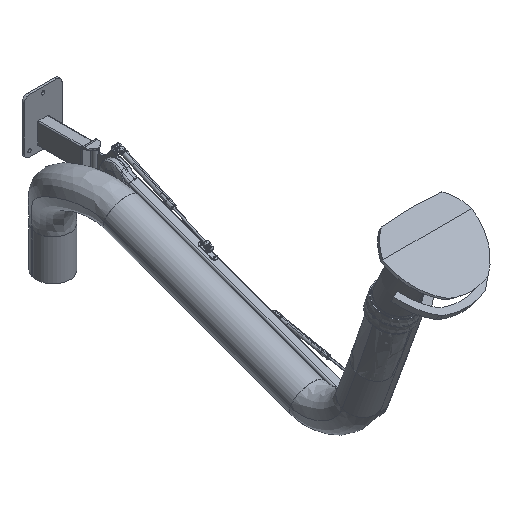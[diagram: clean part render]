
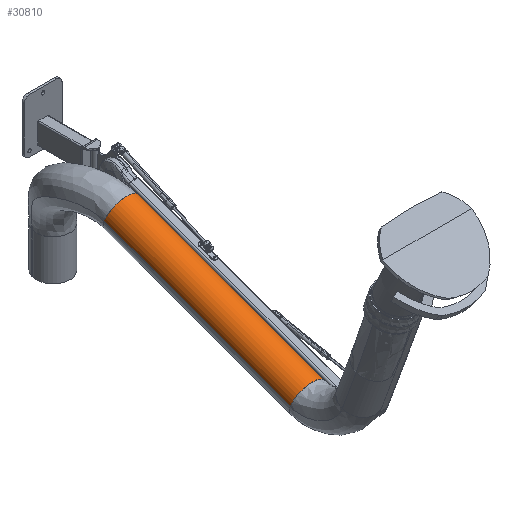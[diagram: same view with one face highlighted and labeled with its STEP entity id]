
A CAD part, isometric view. The second image highlights one B-rep face of the part: STEP entity #30810.
In plain terms, the highlighted free-form (B-spline) face has degree [3, 3] with [7, 6] control points.
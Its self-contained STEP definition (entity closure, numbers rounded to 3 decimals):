
#29504=CARTESIAN_POINT('',(-70.,880.727,-575.));
#29505=DIRECTION('',(0.,1.,0.));
#29506=DIRECTION('',(-1.,0.,0.));
#29507=AXIS2_PLACEMENT_3D('',#29504,#29505,#29506);
#29582=CARTESIAN_POINT('',(-70.,150.,-575.));
#29583=DIRECTION('',(0.,1.,0.));
#29584=DIRECTION('',(-1.,0.,0.));
#29585=AXIS2_PLACEMENT_3D('',#29582,#29583,#29584);
#29590=CARTESIAN_POINT('',(-132.5,150.,-575.));
#29591=CARTESIAN_POINT('',(-132.5,231.192,
-575.));
#29592=CARTESIAN_POINT('',(-132.5,393.576,
-575.));
#29593=CARTESIAN_POINT('',(-132.5,637.152,
-575.));
#29594=CARTESIAN_POINT('',(-132.5,799.535,
-575.));
#29595=CARTESIAN_POINT('',(-132.5,880.727,
-575.));
#29819=CARTESIAN_POINT('',(-7.5,150.,-575.));
#29820=CARTESIAN_POINT('',(-7.5,231.192,
-575.));
#29821=CARTESIAN_POINT('',(-7.5,393.576,
-575.));
#29822=CARTESIAN_POINT('',(-7.5,637.152,
-575.));
#29823=CARTESIAN_POINT('',(-7.5,799.535,
-575.));
#29824=CARTESIAN_POINT('',(-7.5,880.727,
-575.));
#30405=CARTESIAN_POINT('',(-7.5,150.,-575.));
#30406=CARTESIAN_POINT('',(-132.5,150.,-575.));
#30407=VERTEX_POINT('',#30405);
#30408=VERTEX_POINT('',#30406);
#30413=VERTEX_POINT('',#29824);
#30414=VERTEX_POINT('',#29595);
#30758=CARTESIAN_POINT('',(-132.377,135.385,
-578.924));
#30759=CARTESIAN_POINT('',(-132.377,140.257,
-578.924));
#30760=CARTESIAN_POINT('',(-132.377,388.704,
-578.924));
#30761=CARTESIAN_POINT('',(-132.377,642.023,
-578.924));
#30762=CARTESIAN_POINT('',(-132.377,890.47,
-578.924));
#30763=CARTESIAN_POINT('',(-132.377,895.342,
-578.924));
#30764=CARTESIAN_POINT('',(-134.792,135.385,
-540.538));
#30765=CARTESIAN_POINT('',(-134.792,140.257,
-540.538));
#30766=CARTESIAN_POINT('',(-134.792,388.704,
-540.538));
#30767=CARTESIAN_POINT('',(-134.792,642.023,
-540.538));
#30768=CARTESIAN_POINT('',(-134.792,890.47,
-540.538));
#30769=CARTESIAN_POINT('',(-134.792,895.342,
-540.538));
#30770=CARTESIAN_POINT('',(-108.462,135.385,
-512.5));
#30771=CARTESIAN_POINT('',(-108.462,140.257,
-512.5));
#30772=CARTESIAN_POINT('',(-108.462,388.704,
-512.5));
#30773=CARTESIAN_POINT('',(-108.462,642.023,
-512.5));
#30774=CARTESIAN_POINT('',(-108.462,890.47,
-512.5));
#30775=CARTESIAN_POINT('',(-108.462,895.342,
-512.5));
#30776=CARTESIAN_POINT('',(-70.,135.385,
-512.5));
#30777=CARTESIAN_POINT('',(-70.,140.257,
-512.5));
#30778=CARTESIAN_POINT('',(-70.,388.704,
-512.5));
#30779=CARTESIAN_POINT('',(-70.,642.023,
-512.5));
#30780=CARTESIAN_POINT('',(-70.,890.47,
-512.5));
#30781=CARTESIAN_POINT('',(-70.,895.342,
-512.5));
#30782=CARTESIAN_POINT('',(-31.537,135.385,
-512.5));
#30783=CARTESIAN_POINT('',(-31.537,140.257,
-512.5));
#30784=CARTESIAN_POINT('',(-31.537,388.704,
-512.5));
#30785=CARTESIAN_POINT('',(-31.537,642.023,
-512.5));
#30786=CARTESIAN_POINT('',(-31.537,890.47,
-512.5));
#30787=CARTESIAN_POINT('',(-31.537,895.342,
-512.5));
#30788=CARTESIAN_POINT('',(-5.208,135.385,
-540.538));
#30789=CARTESIAN_POINT('',(-5.208,140.257,
-540.538));
#30790=CARTESIAN_POINT('',(-5.208,388.704,
-540.538));
#30791=CARTESIAN_POINT('',(-5.208,642.023,
-540.538));
#30792=CARTESIAN_POINT('',(-5.208,890.47,
-540.538));
#30793=CARTESIAN_POINT('',(-5.208,895.342,
-540.538));
#30794=CARTESIAN_POINT('',(-7.623,135.385,
-578.925));
#30795=CARTESIAN_POINT('',(-7.623,140.257,
-578.925));
#30796=CARTESIAN_POINT('',(-7.623,388.704,
-578.925));
#30797=CARTESIAN_POINT('',(-7.623,642.023,
-578.925));
#30798=CARTESIAN_POINT('',(-7.623,890.47,
-578.925));
#30799=CARTESIAN_POINT('',(-7.623,895.342,
-578.925));
#30800=(BOUNDED_SURFACE()B_SPLINE_SURFACE(3,3,((#30758,#30759,#30760,#30761,
#30762,#30763),(#30764,#30765,#30766,#30767,#30768,#30769),(#30770,#30771,
#30772,#30773,#30774,#30775),(#30776,#30777,#30778,#30779,#30780,#30781),
(#30782,#30783,#30784,#30785,#30786,#30787),(#30788,#30789,#30790,#30791,#30792,
#30793),(#30794,#30795,#30796,#30797,#30798,#30799)),.UNSPECIFIED.,.F.,.F.,.F.)B_SPLINE_SURFACE_WITH_KNOTS((4,3,4),(4,1,1,4),(0.,1.,2.),(-0.02,0.,1.,
1.02),.UNSPECIFIED.)GEOMETRIC_REPRESENTATION_ITEM()RATIONAL_B_SPLINE_SURFACE((
(1.187,1.187,1.187,1.187,
1.187,1.187),(0.938,0.938,
0.938,0.938,0.938,0.938),(
0.938,0.938,0.938,0.938,
0.938,0.938),(1.187,1.187,
1.187,1.187,1.187,1.187),(
0.938,0.938,0.938,0.938,
0.938,0.938),(0.938,0.938,
0.938,0.938,0.938,0.938),(
1.187,1.187,1.187,1.187,
1.187,1.187)))REPRESENTATION_ITEM('')SURFACE());
#30802=ORIENTED_EDGE('',*,*,#30801,.F.);
#30804=ORIENTED_EDGE('',*,*,#30803,.T.);
#30805=ORIENTED_EDGE('',*,*,#30748,.T.);
#30807=ORIENTED_EDGE('',*,*,#30806,.F.);
#30808=EDGE_LOOP('',(#30802,#30804,#30805,#30807));
#30809=FACE_OUTER_BOUND('',#30808,.F.);
#29508=CIRCLE('',#29507,62.5);
#29586=CIRCLE('',#29585,62.5);
#29596=B_SPLINE_CURVE_WITH_KNOTS('',3,(#29590,#29591,#29592,#29593,#29594,
#29595),.UNSPECIFIED.,.F.,.F.,(4,1,1,4),(0.,0.333,
0.667,1.),.UNSPECIFIED.);
#29825=B_SPLINE_CURVE_WITH_KNOTS('',3,(#29819,#29820,#29821,#29822,#29823,
#29824),.UNSPECIFIED.,.F.,.F.,(4,1,1,4),(0.,0.333,
0.667,1.),.UNSPECIFIED.);
#30748=EDGE_CURVE('',#30414,#30413,#29508,.T.);
#30801=EDGE_CURVE('',#30408,#30407,#29586,.T.);
#30803=EDGE_CURVE('',#30408,#30414,#29596,.T.);
#30806=EDGE_CURVE('',#30407,#30413,#29825,.T.);
#30810=ADVANCED_FACE('',(#30809),#30800,.T.);
